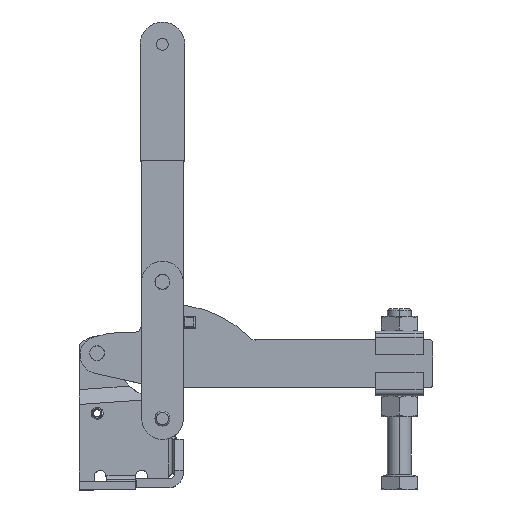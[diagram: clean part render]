
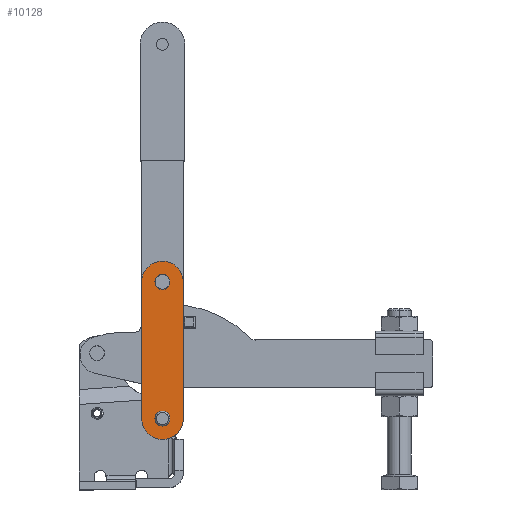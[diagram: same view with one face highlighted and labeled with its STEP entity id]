
A CAD part, top view. The second image highlights one B-rep face of the part: STEP entity #10128.
In plain terms, the highlighted planar face has unit normal (0, 0, 1).
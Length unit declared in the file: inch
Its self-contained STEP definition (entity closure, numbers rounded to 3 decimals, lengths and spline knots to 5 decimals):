
#9836=CARTESIAN_POINT('',(2.717,0.,0.179));
#9837=VERTEX_POINT('',#9836);
#9853=CARTESIAN_POINT('',(3.033,0.,0.179));
#9854=VERTEX_POINT('',#9853);
#9861=CARTESIAN_POINT('',(2.875,0.0,0.179));
#9862=DIRECTION('',(0.0,0.0,-1.0));
#9863=DIRECTION('',(-1.0,0.0,0.0));
#9864=AXIS2_PLACEMENT_3D('',#9861,#9862,#9863);
#9865=CIRCLE('',#9864,0.158);
#9866=EDGE_CURVE('',#9837,#9854,#9865,.T.);
#9878=CARTESIAN_POINT('',(-0.158,0.,0.179));
#9879=VERTEX_POINT('',#9878);
#9895=CARTESIAN_POINT('',(0.158,0.,0.179));
#9896=VERTEX_POINT('',#9895);
#9903=CARTESIAN_POINT('',(0.0,0.0,0.179));
#9904=DIRECTION('',(0.0,0.0,-1.0));
#9905=DIRECTION('',(-1.0,0.0,0.0));
#9906=AXIS2_PLACEMENT_3D('',#9903,#9904,#9905);
#9907=CIRCLE('',#9906,0.158);
#9908=EDGE_CURVE('',#9879,#9896,#9907,.T.);
#9919=CARTESIAN_POINT('',(0.0,0.0,0.179));
#9920=DIRECTION('',(0.0,0.0,-1.0));
#9921=DIRECTION('',(-1.0,0.0,0.0));
#9922=AXIS2_PLACEMENT_3D('',#9919,#9920,#9921);
#9923=CIRCLE('',#9922,0.158);
#9924=EDGE_CURVE('',#9896,#9879,#9923,.T.);
#9943=CARTESIAN_POINT('',(2.875,0.0,0.179));
#9944=DIRECTION('',(0.0,0.0,-1.0));
#9945=DIRECTION('',(-1.0,0.0,0.0));
#9946=AXIS2_PLACEMENT_3D('',#9943,#9944,#9945);
#9947=CIRCLE('',#9946,0.158);
#9948=EDGE_CURVE('',#9854,#9837,#9947,.T.);
#9966=CARTESIAN_POINT('',(0.0,0.4375,0.179));
#9967=VERTEX_POINT('',#9966);
#9968=CARTESIAN_POINT('',(2.875,0.4375,0.179));
#9969=VERTEX_POINT('',#9968);
#9970=CARTESIAN_POINT('',(0.0,0.4375,0.179));
#9971=DIRECTION('',(1.0,0.0,0.0));
#9972=VECTOR('',#9971,2.875);
#9973=LINE('',#9970,#9972);
#9974=EDGE_CURVE('',#9967,#9969,#9973,.T.);
#10006=CARTESIAN_POINT('',(2.875,-0.4375,0.179));
#10007=VERTEX_POINT('',#10006);
#10008=CARTESIAN_POINT('',(2.875,0.0,0.179));
#10009=DIRECTION('',(0.0,0.0,-1.0));
#10010=DIRECTION('',(0.0,-1.0,0.0));
#10011=AXIS2_PLACEMENT_3D('',#10008,#10009,#10010);
#10012=CIRCLE('',#10011,0.4375);
#10013=EDGE_CURVE('',#9969,#10007,#10012,.T.);
#10039=CARTESIAN_POINT('',(0.0,-0.4375,0.179));
#10040=VERTEX_POINT('',#10039);
#10041=CARTESIAN_POINT('',(2.875,-0.4375,0.179));
#10042=DIRECTION('',(-1.0,0.0,0.0));
#10043=VECTOR('',#10042,2.875);
#10044=LINE('',#10041,#10043);
#10045=EDGE_CURVE('',#10007,#10040,#10044,.T.);
#10070=CARTESIAN_POINT('',(0.0,0.0,0.179));
#10071=DIRECTION('',(0.0,0.0,-1.0));
#10072=DIRECTION('',(0.0,1.0,0.0));
#10073=AXIS2_PLACEMENT_3D('',#10070,#10071,#10072);
#10074=CIRCLE('',#10073,0.4375);
#10075=EDGE_CURVE('',#10040,#9967,#10074,.T.);
#10109=CARTESIAN_POINT('',(1.4375,0.0,0.179));
#10110=DIRECTION('',(0.0,0.0,1.0));
#10111=DIRECTION('',(1.0,0.0,0.0));
#10112=AXIS2_PLACEMENT_3D('',#10109,#10110,#10111);
#10113=PLANE('',#10112);
#10114=ORIENTED_EDGE('',*,*,#9974,.F.);
#10115=ORIENTED_EDGE('',*,*,#10075,.F.);
#10116=ORIENTED_EDGE('',*,*,#10045,.F.);
#10117=ORIENTED_EDGE('',*,*,#10013,.F.);
#10118=EDGE_LOOP('',(#10114,#10115,#10116,#10117));
#10119=FACE_OUTER_BOUND('',#10118,.T.);
#10120=ORIENTED_EDGE('',*,*,#9924,.T.);
#10121=ORIENTED_EDGE('',*,*,#9908,.T.);
#10122=EDGE_LOOP('',(#10120,#10121));
#10123=FACE_BOUND('',#10122,.T.);
#10124=ORIENTED_EDGE('',*,*,#9948,.T.);
#10125=ORIENTED_EDGE('',*,*,#9866,.T.);
#10126=EDGE_LOOP('',(#10124,#10125));
#10127=FACE_BOUND('',#10126,.T.);
#10128=ADVANCED_FACE('',(#10119,#10123,#10127),#10113,.T.);
